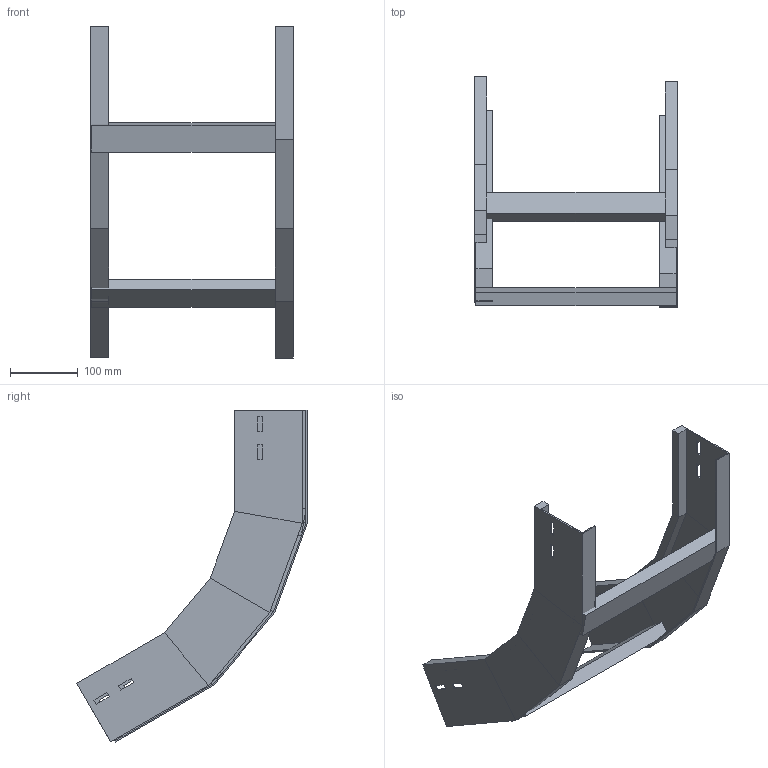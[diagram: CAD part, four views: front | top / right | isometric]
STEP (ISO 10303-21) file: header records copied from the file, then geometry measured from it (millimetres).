
FILE_DESCRIPTION (( 'STEP AP214' ), '1' );
FILE_NAME ('A2X40B3D300XX.step', '2025-04-02T09:42:03', ( '' ), ( '' ), 'SwSTEP 2.0', 'SolidWorks 2023', '' );
FILE_SCHEMA (( 'AUTOMOTIVE_DESIGN' ));
Length unit declared in the file: millimetre
Products named in the file (3): A2X40B3D300XX; TRAVERSINO_300; LONGH.SALITA_60°_H100_R300
Assembly tree (4 placements, depth 2):
  A2X40B3D300XX
    LONGH.SALITA_60°_H100_R300  x2
    TRAVERSINO_300  x2
Bounding box: 300 x 340.82 x 490.76 mm (x, y, z)
Volume: 961970 mm3; surface area: 399288.7 mm2
Topology: 4 solids, 4 shells, 112 faces, 264 edges, 160 vertices
Faces by surface type: plane 112
Entity records: 1664 total; most frequent: CARTESIAN_POINT 275, ORIENTED_EDGE 264, DIRECTION 258, LINE 132, VECTOR 132, EDGE_CURVE 132, VERTEX_POINT 80, EDGE_LOOP 64
